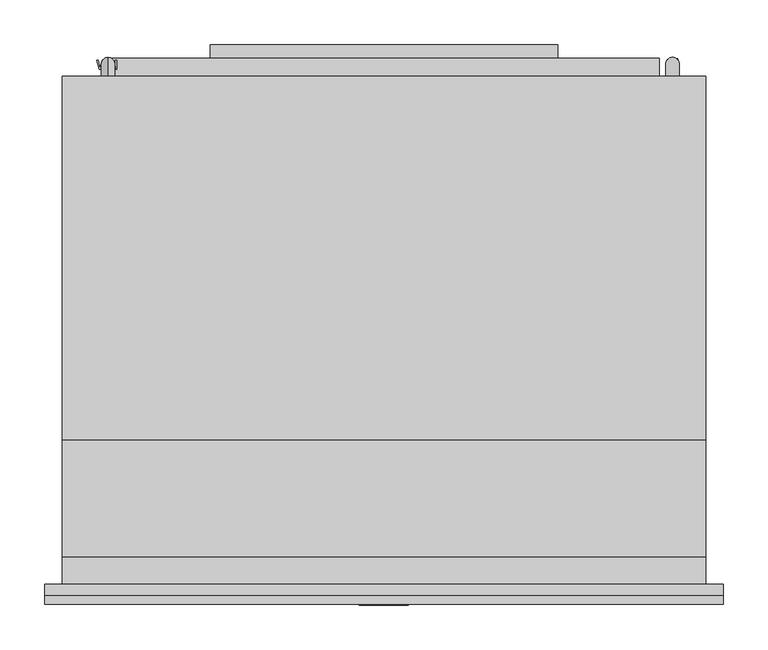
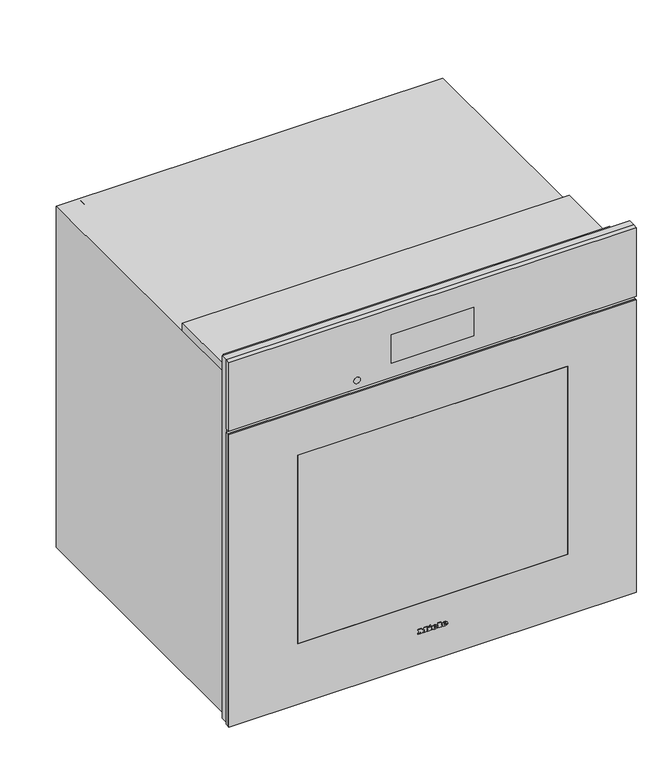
"""IFC4 building model written with IfcOpenShell, lengths in millimetres: proxy geometry, 11805630_USA_H7880BPX_GRGR : 22788075_USA_11805630_H7880BPX_GRGR."""

from ifc_helpers import new_model, si_unit, point, frame, frame_2d, origin, place, context, project, spatial, polyline, circle_curve, ellipse_curve, trimmed, segment, composite_curve, outline, extrude, faceted_brep, source, transform, mapped, element, save
from ifc_brep_helpers import plane_surface, cylinder_surface, revolved_surface, extruded_surface, advanced_brep


def specialty_equipment_b9000403(model_context):
    return source(origin(), model_context, "Body", "SolidModel", [
        advanced_brep(
        [(21.28, -23.0, 73.133), (21.28, -23.0, 74.042), (27.301, -23.0, 74.042), (16.825, -23.0, 74.042), (19.3, -23.0, 71.0), (27.148, -23.0, 73.133), (24.43, -23.0, 73.133), (22.288, -23.0, 72.125), (21.28, -23.0, 75.194), (21.28, -23.0, 76.175), (22.819, -23.0, 76.175), (22.819, -23.0, 75.194), (21.28, -22.0, 73.133), (22.288, -22.0, 72.125), (24.43, -22.0, 73.133), (27.148, -22.0, 73.133), (19.3, -22.0, 71.0), (16.825, -22.0, 74.042), (27.301, -22.0, 74.042), (21.28, -22.0, 74.042), (21.28, -22.0, 75.194), (22.819, -22.0, 75.194), (22.819, -22.0, 76.175), (21.28, -22.0, 76.175)],
        [
            (0, 1),
            (1, 2),
            (2, 3, ellipse_curve(frame((22.063, -23.0, 74.042), z_axis=(0.0, -1.0, 0.0), x_axis=(-1.0, 0.0, 0.0)), 5.238, 4.329)),
            (3, 4, circle_curve(frame((20.3080491, -23.0, 74.348), z_axis=(0.0, -1.0, 0.0), x_axis=(0.0, 0.0, -1.0)), 3.4964649)),
            (4, 5, circle_curve(frame((21.9581428, -23.0, 76.724), z_axis=(0.0, -1.0, 0.0), x_axis=(0.0, 0.0, -1.0)), 6.3110933)),
            (5, 6),
            (6, 7, circle_curve(frame((22.7279412, -23.0, 73.97), z_axis=(0.0, 1.0, 0.0), x_axis=(0.0, 0.0, -1.0)), 1.896727)),
            (7, 0, circle_curve(frame((22.288, -23.0, 73.133), z_axis=(0.0, 1.0, 0.0), x_axis=(0.0, 0.0, -1.0)), 1.008)),
            (8, 9),
            (9, 10, circle_curve(frame((22.0495, -23.0, 76.175), z_axis=(0.0, 1.0, 0.0), x_axis=(0.0, 0.0, -1.0)), 0.7695)),
            (10, 11),
            (11, 8),
            (12, 13, circle_curve(frame((22.288, -22.0, 73.133), z_axis=(0.0, -1.0, 0.0), x_axis=(0.0, 0.0, -1.0)), 1.008)),
            (13, 14, circle_curve(frame((22.7279412, -22.0, 73.97), z_axis=(0.0, -1.0, 0.0), x_axis=(0.0, 0.0, -1.0)), 1.896727)),
            (14, 15),
            (15, 16, circle_curve(frame((21.9581428, -22.0, 76.724), z_axis=(0.0, 1.0, 0.0), x_axis=(0.0, 0.0, -1.0)), 6.3110933)),
            (16, 17, circle_curve(frame((20.3080491, -22.0, 74.348), z_axis=(0.0, 1.0, 0.0), x_axis=(0.0, 0.0, -1.0)), 3.4964649)),
            (17, 18, ellipse_curve(frame((22.063, -22.0, 74.042), z_axis=(0.0, 1.0, 0.0), x_axis=(-1.0, 0.0, 0.0)), 5.238, 4.329)),
            (18, 19),
            (19, 12),
            (20, 21),
            (21, 22),
            (22, 23, circle_curve(frame((22.0495, -22.0, 76.175), z_axis=(0.0, -1.0, 0.0), x_axis=(0.0, 0.0, -1.0)), 0.7695)),
            (23, 20),
            (0, 12),
            (19, 1),
            (18, 2),
            (5, 15),
            (14, 6),
            (17, 3),
            (13, 7),
            (16, 4),
            (8, 20),
            (23, 9),
            (22, 10),
            (21, 11),
        ],
        [
            plane_surface(frame((21.28, -23.0, 74.042), z_axis=(0.0, -1.0, 0.0), x_axis=(0.0, 0.0, 1.0))),
            plane_surface(frame((21.28, -22.0, 74.042), z_axis=(0.0, 1.0, 0.0), x_axis=(0.0, 0.0, -1.0))),
            plane_surface(frame((21.28, -23.0, 73.133), z_axis=(1.0, 0.0, 0.0), x_axis=(0.0, 1.0, 0.0))),
            plane_surface(frame((21.28, -23.0, 74.042), z_axis=(0.0, 0.0, -1.0), x_axis=(0.0, 1.0, 0.0))),
            plane_surface(frame((27.148, -23.0, 73.133), z_axis=(0.0, 0.0, 1.0), x_axis=(0.0, 1.0, 0.0))),
            extruded_surface(trimmed(ellipse_curve(frame((22.063, -21.0, 74.042), z_axis=(0.0, -1.0, 0.0), x_axis=(-1.0, 0.0, 0.0)), 5.238, 4.329), [point((27.301, -21.0, 74.042))], [point((16.825, -21.0, 74.042))], True, "CARTESIAN"), (0.0, -1.0, 0.0), 1.0),
            revolved_surface(polyline([(22.7279412, -22.0, 72.073273), (22.7279412, -23.0, 72.073273)]), (22.7279412, -22.0, 73.97), (0.0, 1.0, 0.0)),
            revolved_surface(polyline([(22.288, -22.0, 72.125), (22.288, -23.0, 72.125)]), (22.288, -22.0, 73.133), (0.0, 1.0, 0.0)),
            cylinder_surface(frame((20.3080491, -22.0, 74.348), z_axis=(0.0, -1.0, 0.0), x_axis=(0.0, 0.0, -1.0)), 3.4964649),
            cylinder_surface(frame((21.9581428, -22.0, 76.724), z_axis=(0.0, -1.0, 0.0), x_axis=(0.0, 0.0, -1.0)), 6.3110933),
            plane_surface(frame((21.28, -23.0, 75.194), z_axis=(1.0, 0.0, 0.0), x_axis=(0.0, 1.0, 0.0))),
            revolved_surface(polyline([(22.0495, -22.0, 75.4055), (22.0495, -23.0, 75.4055)]), (22.0495, -22.0, 76.175), (0.0, 1.0, 0.0)),
            plane_surface(frame((22.819, -23.0, 76.175), z_axis=(-1.0, 0.0, 0.0), x_axis=(0.0, 1.0, 0.0))),
            plane_surface(frame((22.819, -23.0, 75.194), z_axis=(0.0, 0.0, 1.0), x_axis=(0.0, 1.0, 0.0))),
        ],
        [
            (0, [[1, 2, 3, 4, 5, 6, 7, 8], [9, 10, 11, 12]]),
            (1, [[13, 14, 15, 16, 17, 18, 19, 20], [21, 22, 23, 24]]),
            (2, [[-1, 25, -20, 26]]),
            (3, [[-2, -26, -19, 27]]),
            (4, [[-6, 28, -15, 29]]),
            (5, [[-3, -27, -18, 30]]),
            (6, [[-7, -29, -14, 31]]),
            (7, [[-8, -31, -13, -25]]),
            (8, [[-4, -30, -17, 32]]),
            (9, [[-5, -32, -16, -28]]),
            (10, [[-9, 33, -24, 34]]),
            (11, [[-10, -34, -23, 35]]),
            (12, [[-11, -35, -22, 36]]),
            (13, [[-12, -36, -21, -33]]),
        ],
    ),
        advanced_brep(
        [(2.497, -23.0, 73.133), (2.497, -23.0, 74.042), (8.518, -23.0, 74.042), (-1.958, -23.0, 74.042), (0.517, -23.0, 71.0), (8.365, -23.0, 73.133), (5.647, -23.0, 73.133), (3.505, -23.0, 72.125), (2.497, -23.0, 75.194), (2.497, -23.0, 76.175), (4.036, -23.0, 76.175), (4.036, -23.0, 75.194), (2.497, -22.0, 73.133), (3.505, -22.0, 72.125), (5.647, -22.0, 73.133), (8.365, -22.0, 73.133), (0.517, -22.0, 71.0), (-1.958, -22.0, 74.042), (8.518, -22.0, 74.042), (2.497, -22.0, 74.042), (2.497, -22.0, 75.194), (4.036, -22.0, 75.194), (4.036, -22.0, 76.175), (2.497, -22.0, 76.175)],
        [
            (0, 1),
            (1, 2),
            (2, 3, ellipse_curve(frame((3.28, -23.0, 74.042), z_axis=(0.0, -1.0, 0.0), x_axis=(-1.0, 0.0, 0.0)), 5.238, 4.329)),
            (3, 4, circle_curve(frame((1.5250491, -23.0, 74.348), z_axis=(0.0, -1.0, 0.0), x_axis=(0.0, 0.0, -1.0)), 3.4964649)),
            (4, 5, circle_curve(frame((3.1751428, -23.0, 76.724), z_axis=(0.0, -1.0, 0.0), x_axis=(0.0, 0.0, -1.0)), 6.3110933)),
            (5, 6),
            (6, 7, circle_curve(frame((3.9449412, -23.0, 73.97), z_axis=(0.0, 1.0, 0.0), x_axis=(0.0, 0.0, -1.0)), 1.896727)),
            (7, 0, circle_curve(frame((3.505, -23.0, 73.133), z_axis=(0.0, 1.0, 0.0), x_axis=(0.0, 0.0, -1.0)), 1.008)),
            (8, 9),
            (9, 10, circle_curve(frame((3.2665, -23.0, 76.175), z_axis=(0.0, 1.0, 0.0), x_axis=(0.0, 0.0, -1.0)), 0.7695)),
            (10, 11),
            (11, 8),
            (12, 13, circle_curve(frame((3.505, -22.0, 73.133), z_axis=(0.0, -1.0, 0.0), x_axis=(0.0, 0.0, -1.0)), 1.008)),
            (13, 14, circle_curve(frame((3.9449412, -22.0, 73.97), z_axis=(0.0, -1.0, 0.0), x_axis=(0.0, 0.0, -1.0)), 1.896727)),
            (14, 15),
            (15, 16, circle_curve(frame((3.1751428, -22.0, 76.724), z_axis=(0.0, 1.0, 0.0), x_axis=(0.0, 0.0, -1.0)), 6.3110933)),
            (16, 17, circle_curve(frame((1.5250491, -22.0, 74.348), z_axis=(0.0, 1.0, 0.0), x_axis=(0.0, 0.0, -1.0)), 3.4964649)),
            (17, 18, ellipse_curve(frame((3.28, -22.0, 74.042), z_axis=(0.0, 1.0, 0.0), x_axis=(-1.0, 0.0, 0.0)), 5.238, 4.329)),
            (18, 19),
            (19, 12),
            (20, 21),
            (21, 22),
            (22, 23, circle_curve(frame((3.2665, -22.0, 76.175), z_axis=(0.0, -1.0, 0.0), x_axis=(0.0, 0.0, -1.0)), 0.7695)),
            (23, 20),
            (0, 12),
            (19, 1),
            (18, 2),
            (5, 15),
            (14, 6),
            (17, 3),
            (13, 7),
            (16, 4),
            (8, 20),
            (23, 9),
            (22, 10),
            (21, 11),
        ],
        [
            plane_surface(frame((2.497, -23.0, 74.042), z_axis=(0.0, -1.0, 0.0), x_axis=(0.0, 0.0, 1.0))),
            plane_surface(frame((2.497, -22.0, 74.042), z_axis=(0.0, 1.0, 0.0), x_axis=(0.0, 0.0, -1.0))),
            plane_surface(frame((2.497, -23.0, 73.133), z_axis=(1.0, 0.0, 0.0), x_axis=(0.0, 1.0, 0.0))),
            plane_surface(frame((2.497, -23.0, 74.042), z_axis=(0.0, 0.0, -1.0), x_axis=(0.0, 1.0, 0.0))),
            plane_surface(frame((8.365, -23.0, 73.133), z_axis=(0.0, 0.0, 1.0), x_axis=(0.0, 1.0, 0.0))),
            extruded_surface(trimmed(ellipse_curve(frame((3.28, -21.0, 74.042), z_axis=(0.0, -1.0, 0.0), x_axis=(-1.0, 0.0, 0.0)), 5.238, 4.329), [point((8.518, -21.0, 74.042))], [point((-1.958, -21.0, 74.042))], True, "CARTESIAN"), (0.0, -1.0, 0.0), 1.0),
            revolved_surface(polyline([(3.9449412, -22.0, 72.073273), (3.9449412, -23.0, 72.073273)]), (3.9449412, -22.0, 73.97), (0.0, 1.0, 0.0)),
            revolved_surface(polyline([(3.505, -22.0, 72.125), (3.505, -23.0, 72.125)]), (3.505, -22.0, 73.133), (0.0, 1.0, 0.0)),
            cylinder_surface(frame((1.5250491, -22.0, 74.348), z_axis=(0.0, -1.0, 0.0), x_axis=(0.0, 0.0, -1.0)), 3.4964649),
            cylinder_surface(frame((3.1751428, -22.0, 76.724), z_axis=(0.0, -1.0, 0.0), x_axis=(0.0, 0.0, -1.0)), 6.3110933),
            plane_surface(frame((2.497, -23.0, 75.194), z_axis=(1.0, 0.0, 0.0), x_axis=(0.0, 1.0, 0.0))),
            revolved_surface(polyline([(3.2665, -22.0, 75.4055), (3.2665, -23.0, 75.4055)]), (3.2665, -22.0, 76.175), (0.0, 1.0, 0.0)),
            plane_surface(frame((4.036, -23.0, 76.175), z_axis=(-1.0, 0.0, 0.0), x_axis=(0.0, 1.0, 0.0))),
            plane_surface(frame((4.036, -23.0, 75.194), z_axis=(0.0, 0.0, 1.0), x_axis=(0.0, 1.0, 0.0))),
        ],
        [
            (0, [[1, 2, 3, 4, 5, 6, 7, 8], [9, 10, 11, 12]]),
            (1, [[13, 14, 15, 16, 17, 18, 19, 20], [21, 22, 23, 24]]),
            (2, [[-1, 25, -20, 26]]),
            (3, [[-2, -26, -19, 27]]),
            (4, [[-6, 28, -15, 29]]),
            (5, [[-3, -27, -18, 30]]),
            (6, [[-7, -29, -14, 31]]),
            (7, [[-8, -31, -13, -25]]),
            (8, [[-4, -30, -17, 32]]),
            (9, [[-5, -32, -16, -28]]),
            (10, [[-9, 33, -24, 34]]),
            (11, [[-10, -34, -23, 35]]),
            (12, [[-11, -35, -22, 36]]),
            (13, [[-12, -36, -21, -33]]),
        ],
    ),
        extrude(outline(polyline([(79.469, -7.34), (78.011, -6.656), (79.433, -3.605), (80.891, -4.28), (79.469, -7.34)])), frame((0.0, -23.0, 0.0), z_axis=(0.0, 1.0, 0.0), x_axis=(0.0, 0.0, 1.0)), (0.0, 0.0, 1.0), 1.0),
        extrude(outline(polyline([(77.813, -9.563), (76.202, -9.563), (76.202, -8.492), (72.512, -8.492), (72.512, -9.563), (71.0, -9.563), (71.0, -2.462), (72.512, -2.462), (72.512, -3.506), (77.813, -3.506), (77.813, -9.563)])), frame((0.0, -23.0, 0.0), z_axis=(0.0, 1.0, 0.0), x_axis=(0.0, 0.0, 1.0)), (0.0, 0.0, 1.0), 1.0),
        extrude(outline(polyline([(78.533, 9.022), (78.533, 10.102), (72.512, 10.102), (72.512, 9.022), (71.0, 9.022), (71.0, 16.321), (72.512, 16.321), (72.512, 15.214), (80.0, 15.214), (80.0, 9.022), (78.533, 9.022)])), frame((0.0, -23.0, 0.0), z_axis=(0.0, 1.0, 0.0), x_axis=(0.0, 0.0, 1.0)), (0.0, 0.0, 1.0), 1.0),
        extrude(outline(polyline([(78.533, -27.5), (78.533, -26.411), (72.512, -26.411), (72.512, -27.5), (71.0, -27.5), (71.0, -23.54), (72.512, -23.54), (72.512, -24.62), (76.3341247, -24.62), (71.0, -20.597), (76.4402223, -16.556), (72.512, -16.556), (72.512, -17.663), (71.0, -17.663), (71.0, -10.481), (72.512, -10.481), (72.512, -11.624), (78.533, -11.624), (78.533, -10.481), (80.0, -10.481), (80.0, -15.962), (76.625, -18.59), (80.0, -21.227), (80.0, -27.5), (78.533, -27.5)])), frame((0.0, -23.0, 0.0), z_axis=(0.0, 1.0, 0.0), x_axis=(0.0, 0.0, 1.0)), (0.0, 0.0, 1.0), 1.0),
        extrude(outline(polyline([(378.5, -18.0), (-378.5, -18.0), (-378.5, -13.0), (378.5, -13.0), (378.5, -18.0)])), frame((0.0, 0.0, 11.0), z_axis=(0.0, 0.0, 1.0), x_axis=(1.0, 0.0, 0.0)), (0.0, 0.0, 1.0), 574.0),
        extrude(outline(polyline([(585.0, 378.5), (585.0, -378.5), (11.0, -378.5), (11.0, 378.5), (585.0, 378.5)]), holes=[polyline([(500.0, 250.5), (130.0, 250.5), (130.0, -250.5), (500.0, -250.5), (500.0, 250.5)])]), frame((0.0, -22.0, 0.0), z_axis=(0.0, 1.0, 0.0), x_axis=(0.0, 0.0, 1.0)), (0.0, 0.0, 1.0), 4.0),
        extrude(outline(polyline([(-250.5, -18.0), (250.5, -18.0), (250.5, -22.0), (-250.5, -22.0), (-250.5, -18.0)])), frame((0.0, 0.0, 130.0), z_axis=(0.0, 0.0, 1.0), x_axis=(1.0, 0.0, 0.0)), (0.0, 0.0, 1.0), 370.0),
        extrude(outline(polyline([(-76.5, -21.0), (76.5, -21.0), (76.5, -22.0), (-76.5, -22.0), (-76.5, -21.0)])), frame((0.0, 0.0, 620.0), z_axis=(0.0, 0.0, 1.0), x_axis=(1.0, 0.0, 0.0)), (0.0, 0.0, 1.0), 56.0),
        faceted_brep([(378.5, -22.0, 727.0), (-378.5, -22.0, 727.0), (-378.5, -22.0, 592.0), (378.5, -22.0, 592.0), (76.5, -22.0, 676.0), (76.5, -22.0, 620.0), (-76.5, -22.0, 620.0), (-76.5, -22.0, 676.0), (378.5, -13.0, 727.0), (378.5, -13.0, 592.0), (-378.5, -13.0, 592.0), (-378.5, -13.0, 727.0), (76.5, -21.0, 676.0), (-76.5, -21.0, 676.0), (-76.5, -21.0, 620.0), (76.5, -21.0, 620.0)], [[[0, 1, 2, 3], [4, 5, 6, 7]], [[8, 9, 10, 11]], [[1, 0, 8, 11]], [[2, 1, 11, 10]], [[3, 2, 10, 9]], [[0, 3, 9, 8]], [[12, 13, 14, 15]], [[12, 15, 5, 4]], [[15, 14, 6, 5]], [[14, 13, 7, 6]], [[13, 12, 4, 7]]]),
        extrude(outline(composite_curve([segment(trimmed(circle_curve(frame_2d((609.0, -140.5745637)), 6.0), [point((609.0, -146.5745637))], [point((609.0, -134.5745637))], False, "CARTESIAN"), True, "CONTINUOUS"), segment(trimmed(circle_curve(frame_2d((609.0, -140.5745637)), 6.0), [point((609.0, -134.5745637))], [point((609.0, -146.5745637))], False, "CARTESIAN"), True, "CONTINUOUS")], self_intersect=False)), frame((0.0, -22.5, 0.0), z_axis=(0.0, 1.0, 0.0), x_axis=(0.0, 0.0, 1.0)), (0.0, 0.0, 1.0), 1.0),
        extrude(outline(polyline([(327.856335, 586.4164958), (327.856335, 576.4164958), (322.0, 576.4164958), (322.0, 577.4164958), (326.856335, 577.4164958), (326.856335, 580.9164958), (323.9061855, 580.9164958), (323.9061855, 581.9164958), (326.856335, 581.9164958), (326.856335, 585.4164958), (322.0, 585.4164958), (322.0, 586.4164958), (327.856335, 586.4164958)])), frame((0.0, 0.0, 585.0), z_axis=(0.0, 0.0, 1.0), x_axis=(1.0, 0.0, 0.0)), (0.0, 0.0, 1.0), 1.0),
        extrude(outline(polyline([(320.5, 576.4164958), (315.5, 576.4164958), (315.5, 577.4164958), (319.3952098, 577.4164958), (319.3952098, 586.4164958), (320.5, 586.4164958), (320.5, 576.4164958)])), frame((0.0, 0.0, 585.0), z_axis=(0.0, 0.0, 1.0), x_axis=(1.0, 0.0, 0.0)), (0.0, 0.0, 1.0), 1.0),
        advanced_brep(
        [(329.5, 567.0, 616.0), (314.5, 567.0, 616.0), (329.5, 580.5, 616.0), (314.5, 580.5, 616.0), (329.5, 580.5, 586.0), (314.5, 580.5, 586.0)],
        [
            (0, 1, circle_curve(frame((322.0, 567.0, 616.0), z_axis=(0.0, -1.0, 0.0), x_axis=(-1.0, 0.0, 0.0)), 7.5)),
            (1, 0, circle_curve(frame((322.0, 567.0, 616.0), z_axis=(0.0, -1.0, 0.0), x_axis=(-1.0, 0.0, 0.0)), 7.5)),
            (0, 2),
            (2, 3, ellipse_curve(frame((322.0, 580.5, 616.0), z_axis=(0.0, -0.7071067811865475, 0.7071067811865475), x_axis=(0.0, -0.7071067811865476, -0.7071067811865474)), 10.6066017, 7.5)),
            (3, 1),
            (3, 2, ellipse_curve(frame((322.0, 580.5, 616.0), z_axis=(0.0, -0.7071067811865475, 0.7071067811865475), x_axis=(0.0, -0.7071067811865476, -0.7071067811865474)), 10.6066017, 7.5)),
            (4, 5, circle_curve(frame((322.0, 580.5, 586.0), z_axis=(0.0, 0.0, -1.0), x_axis=(-1.0, 0.0, 0.0)), 7.5)),
            (5, 4, circle_curve(frame((322.0, 580.5, 586.0), z_axis=(0.0, 0.0, -1.0), x_axis=(-1.0, 0.0, 0.0)), 7.5)),
            (2, 4),
            (5, 3),
        ],
        [
            plane_surface(frame((322.0, 567.0, 616.0), z_axis=(0.0, -1.0, 0.0), x_axis=(-1.0, 0.0, 0.0))),
            cylinder_surface(frame((322.0, 567.0, 616.0), z_axis=(0.0, -1.0, 0.0), x_axis=(-1.0, 0.0, 0.0)), 7.5),
            plane_surface(frame((322.0, 580.5, 586.0), z_axis=(0.0, 0.0, -1.0), x_axis=(-1.0, 0.0, 0.0))),
            cylinder_surface(frame((322.0, 580.5, 616.0), z_axis=(0.0, 0.0, 1.0), x_axis=(-1.0, 0.0, 0.0)), 7.5),
        ],
        [
            (0, [[1, 2]]),
            (1, [[-1, 3, 4, 5]]),
            (1, [[-2, -5, 6, -3]]),
            (2, [[7, 8]]),
            (3, [[-4, 9, -8, 10]]),
            (3, [[-6, -10, -7, -9]]),
        ],
    ),
        extrude(outline(polyline([(-299.6202453, 584.6579034), (-298.3679159, 584.6579034), (-298.3679159, 574.6085654), (-299.6149696, 574.6085654), (-299.6149696, 578.0788376), (-301.2450476, 579.7089156), (-305.0884371, 574.6085654), (-306.7066233, 574.6085654), (-302.2301778, 580.5490092), (-306.5150452, 584.6543198), (-304.7713587, 584.6543198), (-299.6202453, 579.7190632), (-299.6202453, 584.6579034)])), frame((0.0, 0.0, 614.0), z_axis=(0.0, 0.0, 1.0), x_axis=(1.0, 0.0, 0.0)), (0.0, 0.0, 1.0), 1.0),
        extrude(outline(polyline([(-307.9869589, 584.6543198), (-306.6749258, 584.6543198), (-309.4307199, 574.6085654), (-310.9513148, 574.6085654), (-313.5193527, 583.4401554), (-316.2529808, 574.6085654), (-317.6013152, 574.6085654), (-320.3417347, 584.6663082), (-319.072273, 584.6663082), (-316.9158246, 576.0172661), (-314.4357517, 584.6663082), (-312.5770153, 584.6663082), (-310.0671021, 576.0346114), (-307.9869589, 584.6543198)])), frame((0.0, 0.0, 614.0), z_axis=(0.0, 0.0, 1.0), x_axis=(1.0, 0.0, 0.0)), (0.0, 0.0, 1.0), 1.0),
        advanced_brep(
        [(-308.0, 573.0, 615.0), (-308.0, 588.0, 615.0), (-308.0, 573.0, 637.5), (-308.0, 588.0, 652.5), (-308.0, 559.0, 637.5), (-308.0, 559.0, 652.5)],
        [
            (0, 1, circle_curve(frame((-308.0, 580.5, 615.0), z_axis=(0.0, 0.0, -1.0), x_axis=(0.0, 1.0, 0.0)), 7.5)),
            (1, 0, circle_curve(frame((-308.0, 580.5, 615.0), z_axis=(0.0, 0.0, -1.0), x_axis=(0.0, 1.0, 0.0)), 7.5)),
            (0, 2),
            (2, 3, ellipse_curve(frame((-308.0, 580.5, 645.0), z_axis=(0.0, 0.7071067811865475, -0.7071067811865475), x_axis=(0.0, -0.7071067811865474, -0.7071067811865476)), 10.6066017, 7.5)),
            (3, 1),
            (3, 2, ellipse_curve(frame((-308.0, 580.5, 645.0), z_axis=(0.0, 0.7071067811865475, -0.7071067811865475), x_axis=(0.0, -0.7071067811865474, -0.7071067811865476)), 10.6066017, 7.5)),
            (4, 5, circle_curve(frame((-308.0, 559.0, 645.0), z_axis=(0.0, -1.0, 0.0), x_axis=(0.0, 0.0, 1.0)), 7.5)),
            (5, 4, circle_curve(frame((-308.0, 559.0, 645.0), z_axis=(0.0, -1.0, 0.0), x_axis=(0.0, 0.0, 1.0)), 7.5)),
            (2, 4),
            (5, 3),
        ],
        [
            plane_surface(frame((-308.0, 580.5, 615.0), z_axis=(0.0, 0.0, -1.0), x_axis=(-1.0, 0.0, 0.0))),
            cylinder_surface(frame((-308.0, 580.5, 615.0), z_axis=(0.0, 0.0, -1.0), x_axis=(0.0, 1.0, 0.0)), 7.5),
            plane_surface(frame((-308.0, 559.0, 645.0), z_axis=(0.0, -1.0, 0.0), x_axis=(-1.0, 0.0, 0.0))),
            cylinder_surface(frame((-308.0, 580.5, 645.0), z_axis=(0.0, 1.0, 0.0), x_axis=(0.0, 0.0, 1.0)), 7.5),
        ],
        [
            (0, [[1, 2]]),
            (1, [[-1, 3, 4, 5]]),
            (1, [[-2, -5, 6, -3]]),
            (2, [[7, 8]]),
            (3, [[-4, 9, -8, 10]]),
            (3, [[-6, -10, -7, -9]]),
        ],
    ),
        faceted_brep([(353.5, 25.0, 593.0), (-353.5, 25.0, 593.0), (-353.5, 25.0, 15.0), (353.5, 25.0, 15.0), (-312.5, 25.0, 526.0), (312.5, 25.0, 526.0), (312.5, 25.0, 103.0), (-312.5, 25.0, 103.0), (353.5, 0.0, 593.0), (-353.5, 0.0, 593.0), (-353.5, 0.0, 15.0), (353.5, 0.0, 15.0), (359.0, 0.0, 670.0), (359.0, 0.0, 0.0), (359.0, 567.0, 0.0), (359.0, 567.0, 670.0), (-359.0, 0.0, 0.0), (-359.0, 0.0, 670.0), (-359.0, 567.0, 670.0), (-359.0, 567.0, 0.0), (-307.0, 567.0, 0.0), (-307.0, 587.0, 0.0), (307.0, 587.0, 0.0), (307.0, 567.0, 0.0), (-307.0, 587.0, 584.0), (307.0, 587.0, 584.0), (312.5, 433.0, 526.0), (-312.5, 433.0, 526.0), (-312.5, 433.0, 103.0), (312.5, 433.0, 103.0), (-307.0, 567.0, 584.0), (307.0, 567.0, 584.0)], [[[0, 1, 2, 3], [4, 5, 6, 7]], [[1, 0, 8, 9]], [[2, 1, 9, 10]], [[0, 3, 11, 8]], [[12, 13, 14, 15]], [[16, 17, 18, 19]], [[13, 16, 19, 20, 21, 22, 23, 14]], [[22, 21, 24, 25]], [[17, 12, 15, 18]], [[16, 13, 12, 17], [9, 8, 11, 10]], [[26, 27, 28, 29]], [[27, 26, 5, 4]], [[28, 27, 4, 7]], [[29, 28, 7, 6]], [[26, 29, 6, 5]], [[3, 2, 10, 11]], [[25, 24, 30, 31]], [[20, 30, 24, 21]], [[14, 23, 31, 30, 20, 19, 18, 15]], [[31, 23, 22, 25]]]),
        extrude(outline(polyline([(-194.0, 602.0), (194.0, 602.0), (194.0, 587.0), (-194.0, 587.0), (-194.0, 602.0)])), frame((0.0, 0.0, 230.0), z_axis=(0.0, 0.0, 1.0), x_axis=(1.0, 0.0, 0.0)), (0.0, 0.0, 1.0), 158.0),
        extrude(outline(polyline([(30.0, 705.0), (30.0, 686.0), (161.0, 686.0), (161.0, 670.0), (0.0, 670.0), (0.0, 705.0), (30.0, 705.0)])), frame((-359.0, 0.0, 0.0), z_axis=(1.0, 0.0, 0.0), x_axis=(0.0, 1.0, 0.0)), (0.0, 0.0, 1.0), 718.0),
        extrude(outline(polyline([(15.0, 378.5), (727.0, 378.5), (727.0, -378.5), (15.0, -378.5), (15.0, -353.5), (593.0, -353.5), (593.0, 353.5), (15.0, 353.5), (15.0, 378.5)])), frame((0.0, -13.0, 0.0), z_axis=(0.0, 1.0, 0.0), x_axis=(0.0, 0.0, 1.0)), (0.0, 0.0, 1.0), 13.0),
    ])


if __name__ == "__main__":
    model = new_model("IFC4")
    model_context = context("Model", 3, world=origin())
    ifc_project = project(units=[si_unit("LENGTHUNIT", "METRE", prefix="MILLI")], contexts=[model_context])
    site = spatial("IfcSite", under=ifc_project)
    building = spatial("IfcBuilding", under=site)
    placement = place(None, origin())
    specialty_equipment_shape = specialty_equipment_b9000403(model_context)
    element("IfcBuildingElementProxy", 1, Name="11805630_USA_H7880BPX_GRGR : 22788075_USA_11805630_H7880BPX_GRGR", ObjectType="11805630_USA_H7880BPX_GRGR : 22788075_USA_11805630_H7880BPX_GRGR", at=placement, inside=building, context=model_context, shape_type="MappedRepresentation", body=[
        mapped(specialty_equipment_shape, transform((0.0, 0.0, 0.0), x_axis=(1.0, 0.0, 0.0), y_axis=(0.0, 1.0, 0.0), z_axis=(0.0, 0.0, 1.0))),
    ])
    save(model, "model.ifc")
